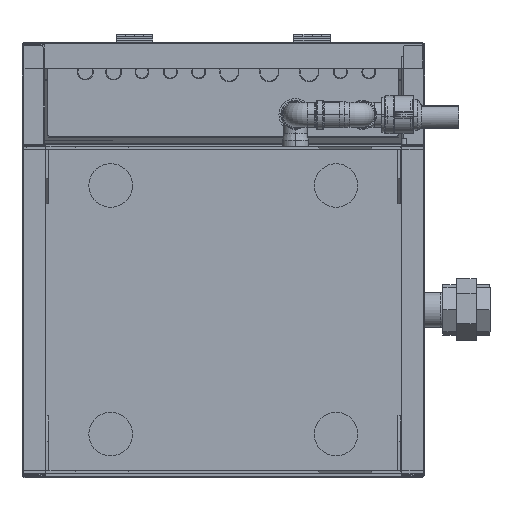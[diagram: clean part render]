
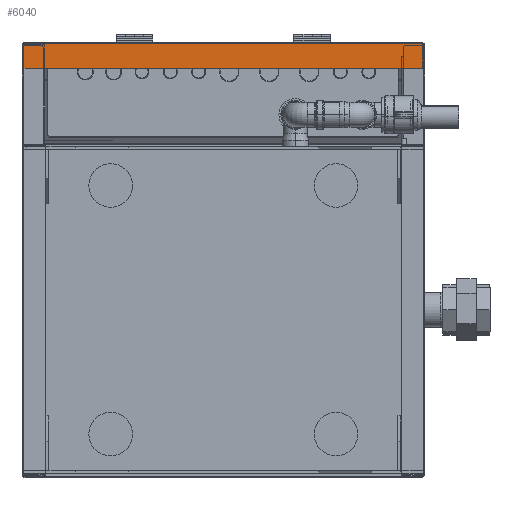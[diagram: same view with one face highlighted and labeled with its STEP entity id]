
A CAD part, front view. The second image highlights one B-rep face of the part: STEP entity #6040.
In plain terms, the highlighted planar face has unit normal (0, -1, 0).
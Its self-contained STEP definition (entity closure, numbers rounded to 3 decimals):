
#3111 = ORIENTED_EDGE ( 'NONE', *, *, #71015, .F. ) ;
#3666 = VECTOR ( 'NONE', #9562, 1000. ) ;
#6040 = ADVANCED_FACE ( 'NONE', ( #67675 ), #61791, .F. ) ;
#6549 = ORIENTED_EDGE ( 'NONE', *, *, #15729, .T. ) ;
#7193 = VECTOR ( 'NONE', #28247, 1000. ) ;
#7250 = VERTEX_POINT ( 'NONE', #48958 ) ;
#9562 = DIRECTION ( 'NONE',  ( 0., 0., -1. ) ) ;
#14053 = VERTEX_POINT ( 'NONE', #87697 ) ;
#14648 = DIRECTION ( 'NONE',  ( -1., 0., 0. ) ) ;
#15729 = EDGE_CURVE ( 'NONE', #64012, #36371, #47411, .T. ) ;
#19118 = EDGE_CURVE ( 'NONE', #7250, #14053, #75229, .T. ) ;
#23358 = CARTESIAN_POINT ( 'NONE',  ( -0.75, -605.325, 1155.999 ) ) ;
#24843 = EDGE_CURVE ( 'NONE', #64012, #7250, #30727, .T. ) ;
#25392 = LINE ( 'NONE', #40618, #38463 ) ;
#27691 = EDGE_LOOP ( 'NONE', ( #47947, #6549, #3111, #80062 ) ) ;
#28247 = DIRECTION ( 'NONE',  ( -1., 0., 0. ) ) ;
#28729 = CARTESIAN_POINT ( 'NONE',  ( -0.75, -605.325, 365.9 ) ) ;
#30727 = LINE ( 'NONE', #23358, #3666 ) ;
#31802 = DIRECTION ( 'NONE',  ( 0., 0., 1. ) ) ;
#33395 = CARTESIAN_POINT ( 'NONE',  ( -0.75, -605.325, 365.9 ) ) ;
#34399 = AXIS2_PLACEMENT_3D ( 'NONE', #59848, #54411, #14648 ) ;
#35781 = VECTOR ( 'NONE', #37924, 1000. ) ;
#36371 = VERTEX_POINT ( 'NONE', #93700 ) ;
#37924 = DIRECTION ( 'NONE',  ( -1., 0., 0. ) ) ;
#38463 = VECTOR ( 'NONE', #31802, 1000. ) ;
#40618 = CARTESIAN_POINT ( 'NONE',  ( -549.25, -605.325, 332.5 ) ) ;
#47411 = LINE ( 'NONE', #28729, #7193 ) ;
#47947 = ORIENTED_EDGE ( 'NONE', *, *, #24843, .F. ) ;
#48958 = CARTESIAN_POINT ( 'NONE',  ( -0.75, -605.325, 332.5 ) ) ;
#54411 = DIRECTION ( 'NONE',  ( 0., 1., 0. ) ) ;
#59848 = CARTESIAN_POINT ( 'NONE',  ( -0.75, -605.325, 332.5 ) ) ;
#61044 = CARTESIAN_POINT ( 'NONE',  ( -0.75, -605.325, 332.5 ) ) ;
#61791 = PLANE ( 'NONE',  #34399 ) ;
#64012 = VERTEX_POINT ( 'NONE', #33395 ) ;
#67675 = FACE_OUTER_BOUND ( 'NONE', #27691, .T. ) ;
#71015 = EDGE_CURVE ( 'NONE', #14053, #36371, #25392, .T. ) ;
#75229 = LINE ( 'NONE', #61044, #35781 ) ;
#80062 = ORIENTED_EDGE ( 'NONE', *, *, #19118, .F. ) ;
#87697 = CARTESIAN_POINT ( 'NONE',  ( -549.25, -605.325, 332.5 ) ) ;
#93700 = CARTESIAN_POINT ( 'NONE',  ( -549.25, -605.325, 365.9 ) ) ;
